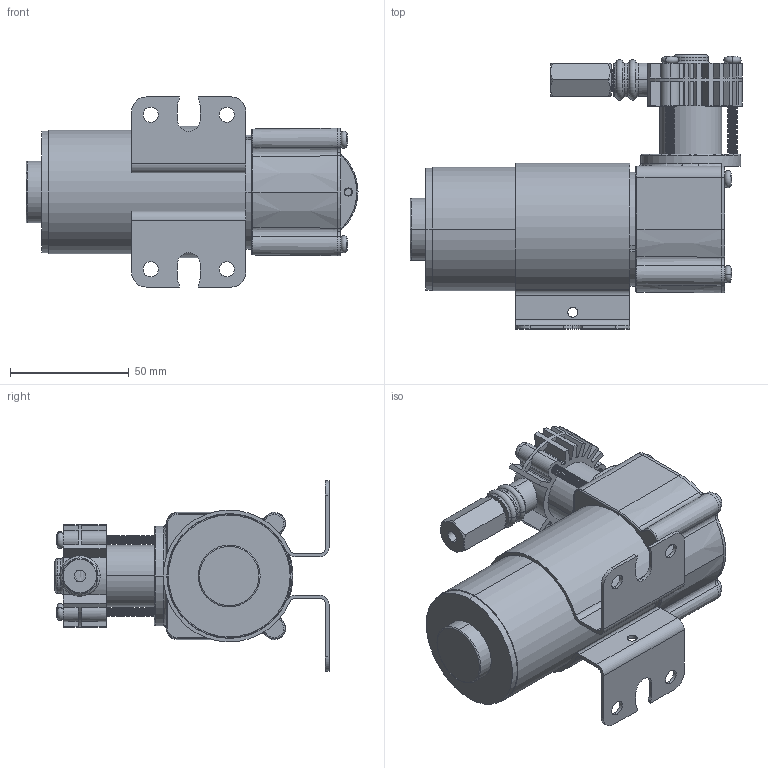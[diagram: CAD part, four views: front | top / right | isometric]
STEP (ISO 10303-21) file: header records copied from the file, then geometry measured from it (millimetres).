
FILE_DESCRIPTION (( 'STEP AP214' ), '1' );
FILE_NAME ('Compressor-95C.step', '2025-12-23T16:03:22', ( '' ), ( '' ), 'SwSTEP 2.0', 'SolidWorks 2026', '' );
FILE_SCHEMA (( 'AUTOMOTIVE_DESIGN' ));
Length unit declared in the file: inch
Products named in the file (11): Part1; Backplate; Compressor-95C; 001; LOS-52; VIAIR 95C_12_27; QIGANG; PRT0001; LS; LOS-10; Cylinder_V2
Assembly tree (14 placements, depth 2):
  Part1
  Compressor-95C
    VIAIR 95C_12_27
    PRT0001
    QIGANG
    001
    Backplate
    LOS-10  x4
    LOS-52  x3
    Cylinder_V2
    LS
Bounding box: 139.72 x 115.32 x 80 mm (x, y, z)
Volume: 82501.3 mm3; surface area: 110775.5 mm2
Topology: 15 solids, 16 shells, 1227 faces, 3325 edges, 2111 vertices
Faces by surface type: cylinder 623, plane 302, bspline 127, torus 84, cone 79, sphere 12
Entity records: 41246 total; most frequent: CARTESIAN_POINT 21977, ORIENTED_EDGE 4158, DIRECTION 3754, EDGE_CURVE 2079, AXIS2_PLACEMENT_3D 1491, VERTEX_POINT 1329, EDGE_LOOP 848, VECTOR 772
